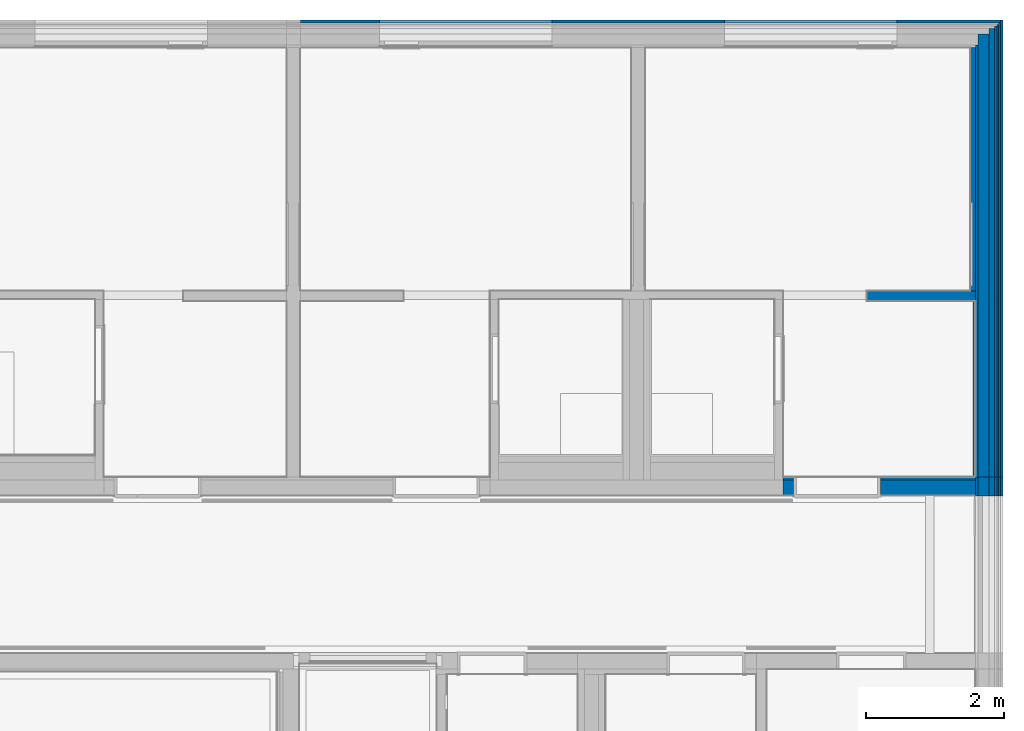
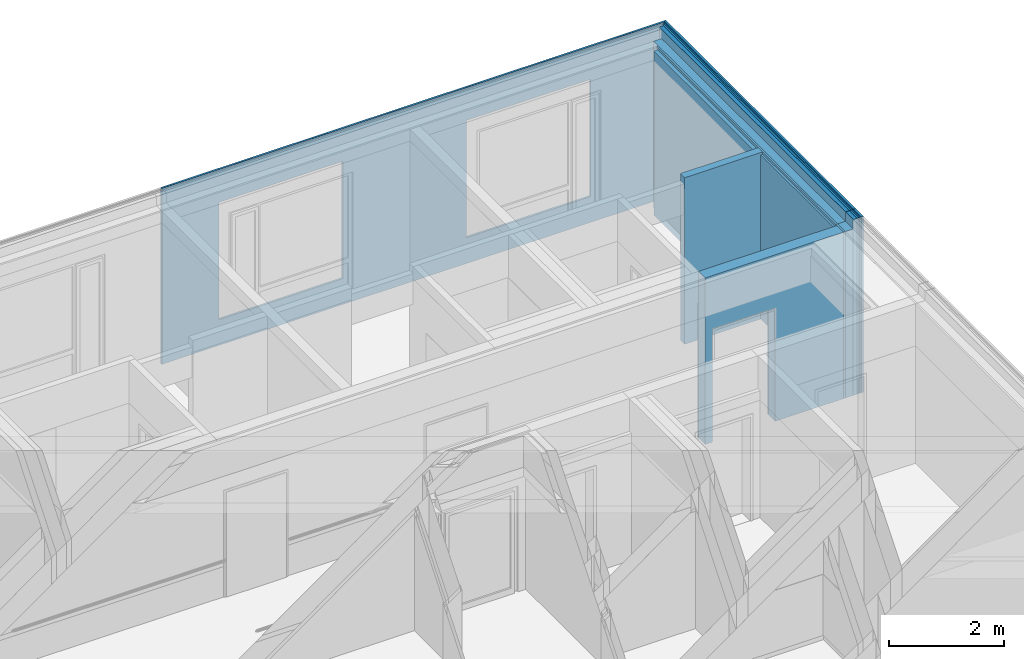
# One storey, part 57 of 222: 20 walls, 4 openings.
"""IFC4 building model written with IfcOpenShell, lengths in metres."""

from ifc_helpers import new_model, entity, si_unit, converted_unit, derived_unit, frame, frame_2d, origin, origin_with_axes, place, context, subcontext, project, spatial, polyline, rectangle, outline, extrude, material, element, save


model = new_model("IFC4")

# Units and contexts
model_context = context("Model", 3, precision=1e-05, world=origin())
body_context = subcontext(model_context, "Body", "Model", "MODEL_VIEW")
ifc_project = project(units=[si_unit("LENGTHUNIT", "METRE"), si_unit("AREAUNIT", "SQUARE_METRE"), si_unit("VOLUMEUNIT", "CUBIC_METRE"), si_unit("MASSUNIT", "GRAM", prefix="KILO"), converted_unit("PLANEANGLEUNIT", "DEGREE", entity("IfcPlaneAngleMeasure", 0.0174532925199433), si_unit("PLANEANGLEUNIT", "RADIAN"), dimensions=[0, 0, 0, 0, 0, 0, 0]), derived_unit("THERMALTRANSMITTANCEUNIT", [(si_unit("POWERUNIT", "WATT"), 1), (si_unit("THERMODYNAMICTEMPERATUREUNIT", "KELVIN"), -1), (si_unit("LENGTHUNIT", "METRE"), -2)]), derived_unit("VOLUMETRICFLOWRATEUNIT", [(si_unit("LENGTHUNIT", "METRE"), 3), (converted_unit("TIMEUNIT", "hour", entity("IfcTimeMeasure", 3600.0), si_unit("TIMEUNIT", "SECOND"), dimensions=[0, 0, 1, 0, 0, 0, 0]), -1), (si_unit("LENGTHUNIT", "METRE"), -1)])], contexts=[model_context])

# Site, building, storey
site_placement = place(None, origin())
site = spatial("IfcSite", under=ifc_project, at=site_placement, Name="Psychiatrie Neubau Wunstorf", CompositionType="ELEMENT")
building_placement = place(site_placement, origin())
building = spatial("IfcBuilding", under=site, at=building_placement, Name="Neubau H2 Stationsgebäude", CompositionType="ELEMENT")
storey_placement = place(building_placement, frame((0.0, 0.0, 3.6)))
storey = spatial("IfcBuildingStorey", under=building, at=storey_placement, Name="H2 Ebene +1", CompositionType="ELEMENT", Elevation=3.6)

# Walls
ifc_material_1 = material(Name="WA-LB")
wall_1_placement = place(storey_placement, frame((105.889, 25.3895, 0.0), z_axis=(0.0, 0.0, 1.0), x_axis=(0.0, -1.0, 0.0)))
element("IfcWall", 1, at=wall_1_placement, inside=storey, material=ifc_material_1, Name="2x Gipsfaserplatte", context=body_context, shape_type="SweptSolid", body=[
    extrude(rectangle(XDim=0.272000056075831, YDim=0.036, at=frame_2d((0.136000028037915, 0.018), x_axis=(1.0, 0.0))), origin_with_axes(), (0.0, 0.0, 1.0), 3.55),
])
ifc_material_2 = material(Name="WA-HD")
wall_2_placement = place(storey_placement, frame((105.925, 25.3895, 0.0), z_axis=(0.0, 0.0, 1.0), x_axis=(0.0, -1.0, 0.0)))
element("IfcWall", 2, at=wall_2_placement, inside=storey, material=ifc_material_2, Name="Holzständer + Zwischendämmung", context=body_context, shape_type="SweptSolid", body=[
    extrude(rectangle(XDim=0.272000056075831, YDim=0.16, at=frame_2d((0.136000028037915, 0.08), x_axis=(1.0, 0.0))), origin_with_axes(), (0.0, 0.0, 1.0), 3.55),
])
ifc_material_3 = material(Name="WA-DL")
wall_3_placement = place(storey_placement, frame((106.085, 25.3895, 0.0), z_axis=(0.0, 0.0, 1.0), x_axis=(0.0, -1.0, 0.0)))
element("IfcWall", 3, at=wall_3_placement, inside=storey, material=ifc_material_3, Name="Staffel + Zwischendämmung", context=body_context, shape_type="SweptSolid", body=[
    extrude(rectangle(XDim=0.272000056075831, YDim=0.08, at=frame_2d((0.136000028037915, 0.04), x_axis=(1.0, 0.0))), origin_with_axes(), (0.0, 0.0, 1.0), 3.75),
])
ifc_material_4 = material(Name="WA-LB")
wall_4_placement = place(storey_placement, frame((106.165, 25.3895, 0.0), z_axis=(0.0, 0.0, 1.0), x_axis=(0.0, -1.0, 0.0)))
element("IfcWall", 4, at=wall_4_placement, inside=storey, material=ifc_material_4, context=body_context, shape_type="SweptSolid", body=[
    extrude(rectangle(XDim=0.272000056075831, YDim=0.036, at=frame_2d((0.136000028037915, 0.018), x_axis=(1.0, 0.0))), origin_with_axes(), (0.0, 0.0, 1.0), 3.75),
])
ifc_material_5 = material(Name="WA-KL")
wall_5_placement = place(storey_placement, frame((106.201, 25.3895, 0.0), z_axis=(0.0, 0.0, 1.0), x_axis=(0.0, -1.0, 0.0)))
element("IfcWall", 5, at=wall_5_placement, inside=storey, material=ifc_material_5, Name="Konterlattung", context=body_context, shape_type="SweptSolid", body=[
    extrude(rectangle(XDim=0.272000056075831, YDim=0.024, at=frame_2d((0.136000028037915, 0.012), x_axis=(1.0, 0.0))), origin_with_axes(), (0.0, 0.0, 1.0), 3.75),
])
ifc_material_6 = material(Name="WA-TL")
wall_6_placement = place(storey_placement, frame((106.225, 25.3895, 0.0), z_axis=(0.0, 0.0, 1.0), x_axis=(0.0, -1.0, 0.0)))
element("IfcWall", 6, at=wall_6_placement, inside=storey, material=ifc_material_6, Name="Traglattung", context=body_context, shape_type="SweptSolid", body=[
    extrude(rectangle(XDim=0.272000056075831, YDim=0.024, at=frame_2d((0.136000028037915, 0.012), x_axis=(1.0, 0.0))), origin_with_axes(), (0.0, 0.0, 1.0), 3.75),
])
ifc_material_7 = material(Name="WA-HS")
wall_7_placement = place(storey_placement, frame((106.249, 25.3895, 0.0), z_axis=(0.0, 0.0, 1.0), x_axis=(0.0, -1.0, 0.0)))
element("IfcWall", 7, at=wall_7_placement, inside=storey, material=ifc_material_7, Name="Holzschindel", context=body_context, shape_type="SweptSolid", body=[
    extrude(rectangle(XDim=0.272000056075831, YDim=0.042, at=frame_2d((0.136000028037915, 0.021), x_axis=(1.0, 0.0))), origin_with_axes(), (0.0, 0.0, 1.0), 3.75),
])
ifc_material_8 = material(Name="WA-LB")
wall_8_placement = place(storey_placement, frame((105.889, 31.65, 0.0), z_axis=(0.0, 0.0, 1.0), x_axis=(0.0, -1.0, 0.0)))
element("IfcWall", 8, at=wall_8_placement, inside=storey, material=ifc_material_8, context=body_context, shape_type="SweptSolid", body=[
    extrude(rectangle(XDim=6.2605, YDim=0.036, at=frame_2d((3.13025, 0.018), x_axis=(1.0, 0.0))), origin_with_axes(), (0.0, 0.0, 1.0), 3.55),
])
ifc_material_9 = material(Name="WA-HD")
wall_9_placement = place(storey_placement, frame((105.925, 31.81, 0.0), z_axis=(0.0, 0.0, 1.0), x_axis=(0.0, -1.0, 0.0)))
element("IfcWall", 9, at=wall_9_placement, inside=storey, material=ifc_material_9, context=body_context, shape_type="SweptSolid", body=[
    extrude(rectangle(XDim=6.4205, YDim=0.16, at=frame_2d((3.21025, 0.08), x_axis=(1.0, 0.0))), origin_with_axes(), (0.0, 0.0, 1.0), 3.55),
])
ifc_material_10 = material(Name="WA-DL")
wall_10_placement = place(storey_placement, frame((106.085, 31.89, 0.0), z_axis=(0.0, 0.0, 1.0), x_axis=(0.0, -1.0, 0.0)))
element("IfcWall", 10, at=wall_10_placement, inside=storey, material=ifc_material_10, context=body_context, shape_type="SweptSolid", body=[
    extrude(rectangle(XDim=6.5005, YDim=0.08, at=frame_2d((3.25025, 0.04), x_axis=(1.0, 0.0))), origin_with_axes(), (0.0, 0.0, 1.0), 3.75),
])
ifc_material_11 = material(Name="WA-LB")
wall_11_placement = place(storey_placement, frame((106.165, 31.926, 0.0), z_axis=(0.0, 0.0, 1.0), x_axis=(0.0, -1.0, 0.0)))
element("IfcWall", 11, at=wall_11_placement, inside=storey, material=ifc_material_11, context=body_context, shape_type="SweptSolid", body=[
    extrude(rectangle(XDim=6.5365, YDim=0.036, at=frame_2d((3.26825, 0.018), x_axis=(1.0, 0.0))), origin_with_axes(), (0.0, 0.0, 1.0), 3.75),
])
ifc_material_12 = material(Name="WA-KL")
wall_12_placement = place(storey_placement, frame((106.201, 31.95, 0.0), z_axis=(0.0, 0.0, 1.0), x_axis=(0.0, -1.0, 0.0)))
element("IfcWall", 12, at=wall_12_placement, inside=storey, material=ifc_material_12, context=body_context, shape_type="SweptSolid", body=[
    extrude(rectangle(XDim=6.5605, YDim=0.024, at=frame_2d((3.28025, 0.012), x_axis=(1.0, 0.0))), origin_with_axes(), (0.0, 0.0, 1.0), 3.75),
])
ifc_material_13 = material(Name="WA-TL")
wall_13_placement = place(storey_placement, frame((106.225, 31.974, 0.0), z_axis=(0.0, 0.0, 1.0), x_axis=(0.0, -1.0, 0.0)))
element("IfcWall", 13, at=wall_13_placement, inside=storey, material=ifc_material_13, context=body_context, shape_type="SweptSolid", body=[
    extrude(rectangle(XDim=6.5845, YDim=0.024, at=frame_2d((3.29225, 0.012), x_axis=(1.0, 0.0))), origin_with_axes(), (0.0, 0.0, 1.0), 3.75),
])
ifc_material_14 = material(Name="WA-HS")
wall_14_placement = place(storey_placement, frame((106.249, 32.016, 0.0), z_axis=(0.0, 0.0, 1.0), x_axis=(0.0, -1.0, 0.0)))
element("IfcWall", 14, at=wall_14_placement, inside=storey, material=ifc_material_14, context=body_context, shape_type="SweptSolid", body=[
    extrude(rectangle(XDim=6.6265, YDim=0.042, at=frame_2d((3.31325, 0.021), x_axis=(1.0, 0.0))), origin_with_axes(), (0.0, 0.0, 1.0), 3.75),
])

# Wall, openings
ifc_material_15 = material(Name="WA-HS")
wall_15_placement = place(storey_placement, frame((96.1, 31.974, 0.0)))
wall_15 = element("IfcWall", 15, at=wall_15_placement, inside=storey, material=ifc_material_15, context=body_context, shape_type="SweptSolid", body=[
    extrude(rectangle(XDim=10.149, YDim=0.042, at=frame_2d((5.0745, 0.021), x_axis=(1.0, 0.0))), origin_with_axes(), (0.0, 0.0, 1.0), 3.75),
])
opening_1_placement = place(wall_15_placement, frame((6.15, 0.0, 0.55), z_axis=(0.0, 1.0, 0.0), x_axis=(0.0, 0.0, 1.0)))
element("IfcOpeningElement", 16, at=opening_1_placement, cuts=wall_15, Name="Fensteröffnung", ObjectType="Opening", context=body_context, shape_type="SweptSolid", body=[
    extrude(outline(polyline([(2.5, 2.5), (2.5, 0.0), (0.0, 0.0), (0.0, 2.5), (2.5, 2.5)])), origin_with_axes(), (0.0, 0.0, 1.0), 0.042),
])
opening_2_placement = place(wall_15_placement, frame((1.15, 0.0, 0.55), z_axis=(0.0, 1.0, 0.0), x_axis=(0.0, 0.0, 1.0)))
element("IfcOpeningElement", 17, at=opening_2_placement, cuts=wall_15, Name="Fensteröffnung", ObjectType="Opening", context=body_context, shape_type="SweptSolid", body=[
    extrude(outline(polyline([(2.5, 2.5), (2.5, 0.0), (0.0, 0.0), (0.0, 2.5), (2.5, 2.5)])), origin_with_axes(), (0.0, 0.0, 1.0), 0.042),
])

# Wall
ifc_material_16 = material(Name="WI-LB")
wall_16_placement = place(storey_placement, frame((104.314, 27.9395000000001, 0.0)))
element("IfcWall", 18, at=wall_16_placement, inside=storey, material=ifc_material_16, context=body_context, shape_type="SweptSolid", body=[
    extrude(rectangle(XDim=1.575, YDim=0.15, at=frame_2d((0.7875, 0.075), x_axis=(1.0, 0.0))), origin_with_axes(), (0.0, 0.0, 1.0), 3.55),
])

# Wall, opening
ifc_material_17 = material(Name="WI-HW 60")
wall_17_placement = place(storey_placement, frame((103.1, 25.1175, 0.0)))
wall_17 = element("IfcWall", 19, at=wall_17_placement, inside=storey, material=ifc_material_17, context=body_context, shape_type="SweptSolid", body=[
    extrude(rectangle(XDim=2.789, YDim=0.232, at=frame_2d((1.3945, 0.116), x_axis=(1.0, 0.0))), origin_with_axes(), (0.0, 0.0, 1.0), 3.55),
])
opening_3_placement = place(wall_17_placement, frame((0.15, 0.0, 0.0), z_axis=(0.0, 1.0, 0.0), x_axis=(0.0, 0.0, 1.0)))
element("IfcOpeningElement", 20, at=opening_3_placement, cuts=wall_17, Name="Türöffnung", ObjectType="Opening", context=body_context, shape_type="SweptSolid", body=[
    extrude(outline(polyline([(2.41, 1.26), (2.41, 0.0), (0.0, 0.0), (0.0, 1.26), (2.41, 1.26)])), origin_with_axes(), (0.0, 0.0, 1.0), 0.232),
])

ifc_material_18 = material(Name="WI-LB")
wall_18_placement = place(storey_placement, frame((103.1, 25.3495, 0.0)))
wall_18 = element("IfcWall", 21, at=wall_18_placement, inside=storey, material=ifc_material_18, context=body_context, shape_type="SweptSolid", body=[
    extrude(rectangle(XDim=2.789, YDim=0.04, at=frame_2d((1.3945, 0.02), x_axis=(1.0, 0.0))), origin_with_axes(), (0.0, 0.0, 1.0), 2.85),
])
opening_4_placement = place(wall_18_placement, frame((0.15, 0.0, 0.0), z_axis=(0.0, 1.0, 0.0), x_axis=(0.0, 0.0, 1.0)))
element("IfcOpeningElement", 22, at=opening_4_placement, cuts=wall_18, Name="Türöffnung", ObjectType="Opening", context=body_context, shape_type="SweptSolid", body=[
    extrude(outline(polyline([(2.41, 1.26), (2.41, 0.0), (0.0, 0.0), (0.0, 1.26), (2.41, 1.26)])), origin_with_axes(), (0.0, 0.0, 1.0), 0.0399999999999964),
])

# Walls
ifc_material_19 = material(Name="WI-LB")
wall_19_placement = place(storey_placement, frame((105.889, 25.3895, 0.0), z_axis=(0.0, 0.0, 1.0), x_axis=(0.0, 1.0, 0.0)))
element("IfcWall", 23, at=wall_19_placement, inside=storey, material=ifc_material_19, context=body_context, shape_type="SweptSolid", body=[
    extrude(rectangle(XDim=2.55000000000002, YDim=0.04, at=frame_2d((1.27500000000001, 0.02), x_axis=(1.0, 0.0))), origin_with_axes(), (0.0, 0.0, 1.0), 3.5),
])
ifc_material_20 = material(Name="WI-LB")
wall_20_placement = place(storey_placement, frame((105.814, 31.614, 0.0), z_axis=(0.0, 0.0, 1.0), x_axis=(0.0, -1.0, 0.0)))
element("IfcWall", 24, at=wall_20_placement, inside=storey, material=ifc_material_20, context=body_context, shape_type="SweptSolid", body=[
    extrude(rectangle(XDim=3.52449999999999, YDim=0.075, at=frame_2d((1.76224999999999, 0.0375), x_axis=(1.0, 0.0))), origin_with_axes(), (0.0, 0.0, 1.0), 3.5),
])

save(model, "model.ifc")
